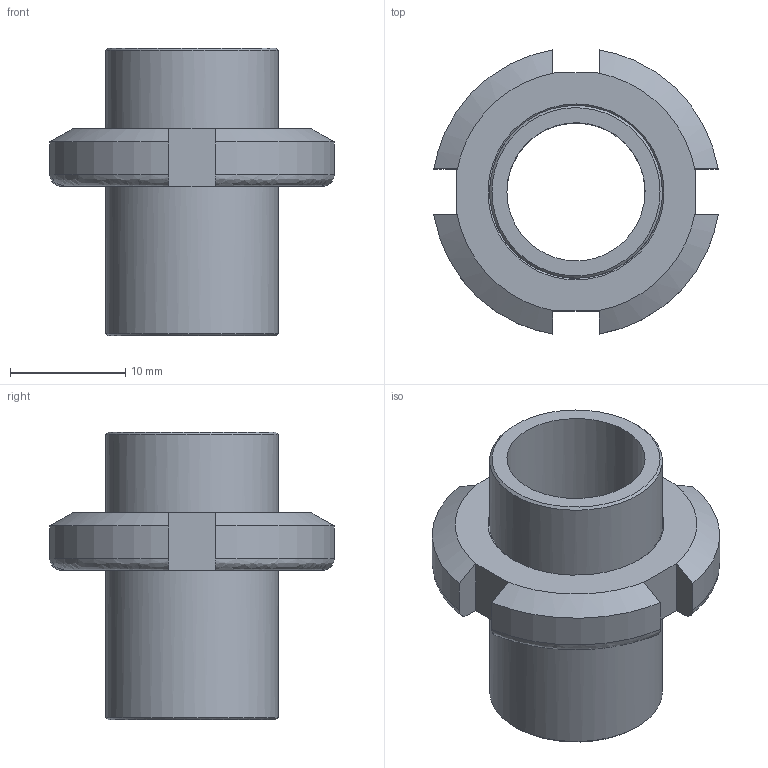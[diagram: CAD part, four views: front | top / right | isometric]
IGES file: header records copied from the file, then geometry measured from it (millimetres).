
Global section: file name: 03.60-A; native system: Autodesk Inventor 2014; preprocessor: unknown; author: APto; date: 20150401.105226; units: millimetre
Bounding box: 24.68 x 24.68 x 25 mm (x, y, z)
Volume: 2915.1 mm3; surface area: 3407.1 mm2
Topology: 2 solids, 2 shells, 35 faces, 94 edges, 63 vertices
Faces by surface type: bspline 35
